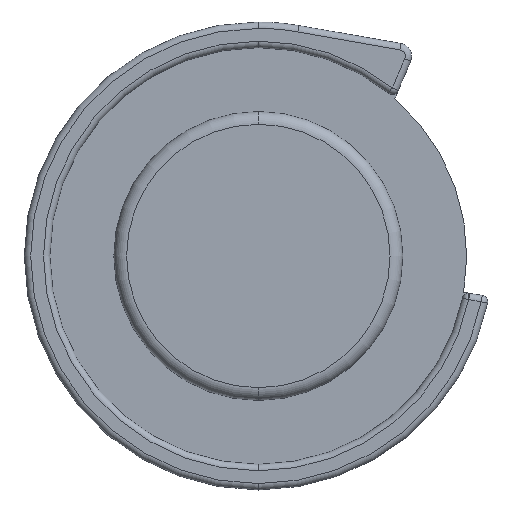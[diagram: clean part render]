
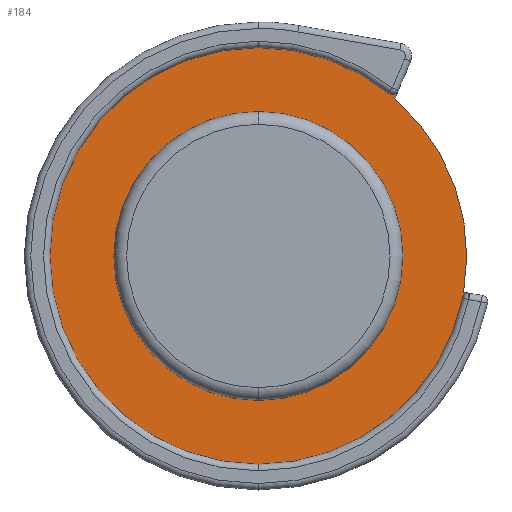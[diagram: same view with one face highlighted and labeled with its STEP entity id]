
A CAD part, left-side view. The second image highlights one B-rep face of the part: STEP entity #184.
In plain terms, the highlighted planar face has unit normal (-1, 0, 0).
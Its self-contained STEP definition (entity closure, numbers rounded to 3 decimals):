
#1 = CIRCLE ( 'NONE', #763, 340.89 ) ;
#20 = AXIS2_PLACEMENT_3D ( 'NONE', #478, #266, #883 ) ;
#26 = VERTEX_POINT ( 'NONE', #724 ) ;
#50 = VERTEX_POINT ( 'NONE', #148 ) ;
#53 = DIRECTION ( 'NONE',  ( 1., 0., 0. ) ) ;
#61 = EDGE_CURVE ( 'NONE', #26, #1095, #1257, .T. ) ;
#62 = LINE ( 'NONE', #492, #1189 ) ;
#71 = CARTESIAN_POINT ( 'NONE',  ( 17., 0., 0. ) ) ;
#110 = ORIENTED_EDGE ( 'NONE', *, *, #776, .T. ) ;
#111 = CARTESIAN_POINT ( 'NONE',  ( 17., -16.537, -2.916 ) ) ;
#113 = ORIENTED_EDGE ( 'NONE', *, *, #496, .T. ) ;
#119 = CARTESIAN_POINT ( 'NONE',  ( 17., -10.943, 12.938 ) ) ;
#122 = DIRECTION ( 'NONE',  ( 1., 0., 0. ) ) ;
#145 = CARTESIAN_POINT ( 'NONE',  ( 17., 0., 0. ) ) ;
#148 = CARTESIAN_POINT ( 'NONE',  ( 17., 0., 16.3 ) ) ;
#169 = CIRCLE ( 'NONE', #778, 16.3 ) ;
#175 = CARTESIAN_POINT ( 'NONE',  ( 17., 0., 0. ) ) ;
#184 = ADVANCED_FACE ( 'NONE', ( #1007, #792 ), #780, .T. ) ;
#215 = EDGE_CURVE ( 'NONE', #26, #328, #926, .T. ) ;
#247 = DIRECTION ( 'NONE',  ( -1., 0., 0. ) ) ;
#255 = EDGE_CURVE ( 'NONE', #713, #884, #629, .T. ) ;
#261 = DIRECTION ( 'NONE',  ( 0., 0., -1. ) ) ;
#266 = DIRECTION ( 'NONE',  ( 1., 0., 0. ) ) ;
#281 = CARTESIAN_POINT ( 'NONE',  ( 17., 0., 0. ) ) ;
#301 = ORIENTED_EDGE ( 'NONE', *, *, #215, .F. ) ;
#321 = EDGE_LOOP ( 'NONE', ( #685, #829, #684, #644, #575, #301, #902, #1033 ) ) ;
#328 = VERTEX_POINT ( 'NONE', #741 ) ;
#338 = DIRECTION ( 'NONE',  ( 0., 0., 1. ) ) ;
#346 = DIRECTION ( 'NONE',  ( 1., 0., 0. ) ) ;
#435 = VERTEX_POINT ( 'NONE', #759 ) ;
#446 = CARTESIAN_POINT ( 'NONE',  ( 17., 0., 11.3 ) ) ;
#453 = EDGE_CURVE ( 'NONE', #50, #884, #954, .T. ) ;
#457 = VERTEX_POINT ( 'NONE', #446 ) ;
#467 = CIRCLE ( 'NONE', #1126, 11.3 ) ;
#478 = CARTESIAN_POINT ( 'NONE',  ( 17., -16.451, -3.408 ) ) ;
#486 = CIRCLE ( 'NONE', #1104, 11.3 ) ;
#489 = CARTESIAN_POINT ( 'NONE',  ( 17., 0., 0. ) ) ;
#492 = CARTESIAN_POINT ( 'NONE',  ( 17., 15.808, 2.787 ) ) ;
#496 = EDGE_CURVE ( 'NONE', #457, #435, #467, .T. ) ;
#505 = DIRECTION ( 'NONE',  ( 0., 0., -1. ) ) ;
#513 = EDGE_CURVE ( 'NONE', #1200, #1095, #62, .T. ) ;
#565 = CARTESIAN_POINT ( 'NONE',  ( 17., -325.682, -118. ) ) ;
#575 = ORIENTED_EDGE ( 'NONE', *, *, #836, .F. ) ;
#589 = DIRECTION ( 'NONE',  ( 1., 0., 0. ) ) ;
#593 = DIRECTION ( 'NONE',  ( 0., -0.985, -0.174 ) ) ;
#622 = CARTESIAN_POINT ( 'NONE',  ( 17., 0., 0. ) ) ;
#629 = CIRCLE ( 'NONE', #799, 0.5 ) ;
#644 = ORIENTED_EDGE ( 'NONE', *, *, #453, .F. ) ;
#653 = AXIS2_PLACEMENT_3D ( 'NONE', #1306, #1319, #889 ) ;
#664 = DIRECTION ( 'NONE',  ( 0., 0., -1. ) ) ;
#684 = ORIENTED_EDGE ( 'NONE', *, *, #255, .T. ) ;
#685 = ORIENTED_EDGE ( 'NONE', *, *, #1312, .F. ) ;
#713 = VERTEX_POINT ( 'NONE', #119 ) ;
#724 = CARTESIAN_POINT ( 'NONE',  ( 17., -15.961, -3.307 ) ) ;
#741 = CARTESIAN_POINT ( 'NONE',  ( 17., 0., -16.3 ) ) ;
#759 = CARTESIAN_POINT ( 'NONE',  ( 17., 0., -11.3 ) ) ;
#763 = AXIS2_PLACEMENT_3D ( 'NONE', #565, #247, #861 ) ;
#776 = EDGE_CURVE ( 'NONE', #435, #457, #486, .T. ) ;
#778 = AXIS2_PLACEMENT_3D ( 'NONE', #489, #589, #1001 ) ;
#780 = PLANE ( 'NONE',  #653 ) ;
#792 = FACE_OUTER_BOUND ( 'NONE', #321, .T. ) ;
#799 = AXIS2_PLACEMENT_3D ( 'NONE', #922, #122, #338 ) ;
#807 = VERTEX_POINT ( 'NONE', #1271 ) ;
#829 = ORIENTED_EDGE ( 'NONE', *, *, #929, .F. ) ;
#836 = EDGE_CURVE ( 'NONE', #328, #50, #1171, .T. ) ;
#853 = CARTESIAN_POINT ( 'NONE',  ( 17., -16.052, -2.83 ) ) ;
#861 = DIRECTION ( 'NONE',  ( 0., 0., 1. ) ) ;
#870 = DIRECTION ( 'NONE',  ( 0., 0., -1. ) ) ;
#883 = DIRECTION ( 'NONE',  ( 0., 0., 1. ) ) ;
#884 = VERTEX_POINT ( 'NONE', #1177 ) ;
#889 = DIRECTION ( 'NONE',  ( 0., 0., 1. ) ) ;
#902 = ORIENTED_EDGE ( 'NONE', *, *, #61, .T. ) ;
#922 = CARTESIAN_POINT ( 'NONE',  ( 17., -10.481, 13.13 ) ) ;
#926 = CIRCLE ( 'NONE', #1065, 16.3 ) ;
#929 = EDGE_CURVE ( 'NONE', #713, #807, #1, .T. ) ;
#954 = CIRCLE ( 'NONE', #1020, 16.3 ) ;
#986 = DIRECTION ( 'NONE',  ( 0., 0., -1. ) ) ;
#1001 = DIRECTION ( 'NONE',  ( 0., 0., -1. ) ) ;
#1007 = FACE_BOUND ( 'NONE', #1089, .T. ) ;
#1020 = AXIS2_PLACEMENT_3D ( 'NONE', #175, #346, #870 ) ;
#1033 = ORIENTED_EDGE ( 'NONE', *, *, #513, .F. ) ;
#1065 = AXIS2_PLACEMENT_3D ( 'NONE', #281, #1199, #986 ) ;
#1068 = AXIS2_PLACEMENT_3D ( 'NONE', #145, #1286, #664 ) ;
#1089 = EDGE_LOOP ( 'NONE', ( #110, #113 ) ) ;
#1095 = VERTEX_POINT ( 'NONE', #111 ) ;
#1104 = AXIS2_PLACEMENT_3D ( 'NONE', #622, #1120, #505 ) ;
#1120 = DIRECTION ( 'NONE',  ( 1., 0., 0. ) ) ;
#1126 = AXIS2_PLACEMENT_3D ( 'NONE', #71, #53, #261 ) ;
#1171 = CIRCLE ( 'NONE', #1068, 16.3 ) ;
#1177 = CARTESIAN_POINT ( 'NONE',  ( 17., -10.169, 12.739 ) ) ;
#1189 = VECTOR ( 'NONE', #593, 1000. ) ;
#1199 = DIRECTION ( 'NONE',  ( 1., 0., 0. ) ) ;
#1200 = VERTEX_POINT ( 'NONE', #853 ) ;
#1257 = CIRCLE ( 'NONE', #20, 0.5 ) ;
#1271 = CARTESIAN_POINT ( 'NONE',  ( 17., -10.683, 12.311 ) ) ;
#1286 = DIRECTION ( 'NONE',  ( 1., 0., 0. ) ) ;
#1306 = CARTESIAN_POINT ( 'NONE',  ( 17., 16.3, 0. ) ) ;
#1312 = EDGE_CURVE ( 'NONE', #807, #1200, #169, .T. ) ;
#1319 = DIRECTION ( 'NONE',  ( -1., 0., 0. ) ) ;
